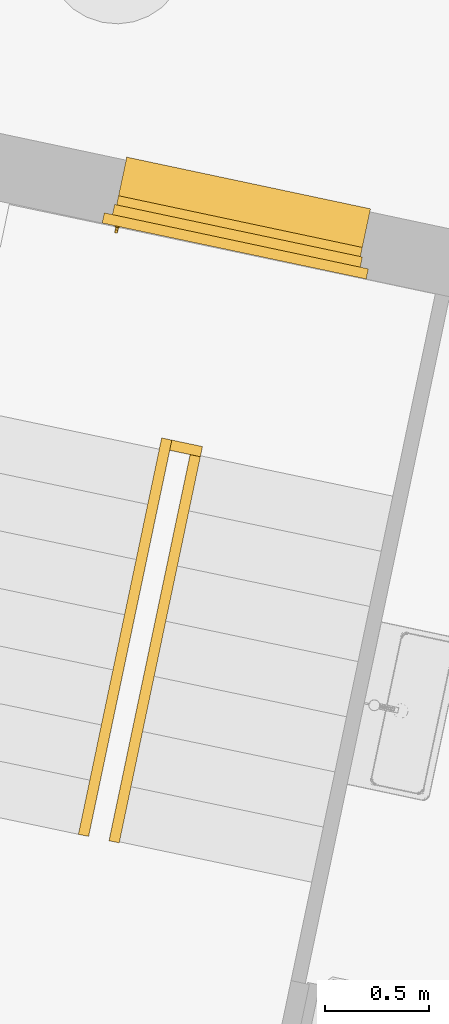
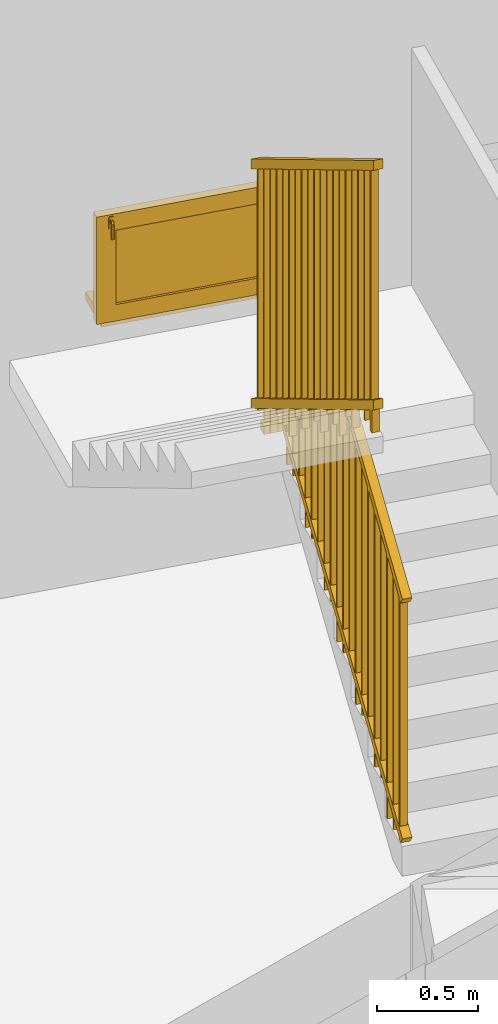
# One storey, part 15 of 20: 1 railing, 1 window, 1 element without a shape of its own.
"""IFC2X3 building model written with IfcOpenShell, lengths in metres."""

from ifc_helpers import new_model, entity, si_unit, converted_unit, derived_unit, direction, frame, frame_2d, origin, place, context, subcontext, project, spatial, polyline, rectangle, outline, extrude, faceted_brep, source, transform, mapped, material, material_list, type_object, type_shapes, element, aggregate, save


model = new_model("IFC2X3")

# Units and contexts
model_context = context("Model", 3, precision=1e-05, world=origin(), true_north=direction((6.12303176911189e-17, 1.0)))
body_context = subcontext(model_context, "Body", "Model", "MODEL_VIEW")
ifc_project = project(units=[si_unit("LENGTHUNIT", "METRE"), si_unit("AREAUNIT", "SQUARE_METRE"), si_unit("VOLUMEUNIT", "CUBIC_METRE"), converted_unit("PLANEANGLEUNIT", "DEGREE", entity("IfcRatioMeasure", 0.0174532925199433), si_unit("PLANEANGLEUNIT", "RADIAN"), dimensions=[0, 0, 0, 0, 0, 0, 0]), si_unit("MASSUNIT", "GRAM", prefix="KILO"), derived_unit("MASSDENSITYUNIT", [(si_unit("MASSUNIT", "GRAM", prefix="KILO"), 1), (si_unit("LENGTHUNIT", "METRE"), -3)]), si_unit("TIMEUNIT", "SECOND"), si_unit("FREQUENCYUNIT", "HERTZ"), si_unit("THERMODYNAMICTEMPERATUREUNIT", "DEGREE_CELSIUS"), derived_unit("THERMALTRANSMITTANCEUNIT", [(si_unit("MASSUNIT", "GRAM", prefix="KILO"), 1), (si_unit("THERMODYNAMICTEMPERATUREUNIT", "KELVIN"), -1), (si_unit("TIMEUNIT", "SECOND"), -3)]), derived_unit("VOLUMETRICFLOWRATEUNIT", [(si_unit("LENGTHUNIT", "METRE"), 3), (si_unit("TIMEUNIT", "SECOND"), -1)]), si_unit("ELECTRICCURRENTUNIT", "AMPERE"), si_unit("ELECTRICVOLTAGEUNIT", "VOLT"), si_unit("POWERUNIT", "WATT"), si_unit("FORCEUNIT", "NEWTON", prefix="KILO"), si_unit("ILLUMINANCEUNIT", "LUX"), si_unit("LUMINOUSFLUXUNIT", "LUMEN"), si_unit("LUMINOUSINTENSITYUNIT", "CANDELA"), derived_unit("USERDEFINED", [(si_unit("MASSUNIT", "GRAM", prefix="KILO"), -1), (si_unit("LENGTHUNIT", "METRE"), -2), (si_unit("TIMEUNIT", "SECOND"), 3), (si_unit("LUMINOUSFLUXUNIT", "LUMEN"), 1)]), derived_unit("LINEARVELOCITYUNIT", [(si_unit("LENGTHUNIT", "METRE"), 1), (si_unit("TIMEUNIT", "SECOND"), -1)]), si_unit("PRESSUREUNIT", "PASCAL"), derived_unit("USERDEFINED", [(si_unit("LENGTHUNIT", "METRE"), -2), (si_unit("MASSUNIT", "GRAM", prefix="KILO"), 1), (si_unit("TIMEUNIT", "SECOND"), -2)])], contexts=[model_context])

# Site, building, storey
site_placement = place(None, origin())
site = spatial("IfcSite", under=ifc_project, at=site_placement, Name="Default", CompositionType="ELEMENT")
building_placement = place(site_placement, origin())
building = spatial("IfcBuilding", under=site, at=building_placement, CompositionType="ELEMENT")
storey_placement = place(building_placement, frame((0.0, 0.0, -0.0686871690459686)))
storey = spatial("IfcBuildingStorey", under=building, at=storey_placement, Name="RDC", CompositionType="ELEMENT", Elevation=-0.0686871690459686)

# Window
ifc_material_1 = material(Name="Fenêtre - Poignée")
ifc_material_2 = material(Name="Fenêtre - Appui")
ifc_material_3 = material(Name="PVC - Blanc")
ifc_material_4 = material(Name="Fenêtre - Cadre")
ifc_material_5 = material(Name="Fenêtre - Vitrage")
ifc_material_list_1 = material_list([ifc_material_1, ifc_material_2, ifc_material_3, ifc_material_4, ifc_material_5])
ifc_material_list_2 = material_list([ifc_material_1, ifc_material_2, ifc_material_3, ifc_material_4, ifc_material_5])
window_style = type_object("IfcWindowStyle", Name="1.20 X 0.60 HT Appui Béton 3", ConstructionType="NOTDEFINED", OperationType="SINGLE_PANEL", ParameterTakesPrecedence=False, Sizeable=False, material=ifc_material_list_2)
shared_shape = source(origin(), body_context, "Body", "Brep", [
    faceted_brep([(0.0806460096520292, 0.333999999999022, 0.702033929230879), (0.0820339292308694, 0.333999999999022, 0.700646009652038), (0.0820339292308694, 0.333999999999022, 0.689332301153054), (0.0806676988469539, 0.333999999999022, 0.687966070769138), (0.0693323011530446, 0.333999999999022, 0.687966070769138), (0.067966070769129, 0.333999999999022, 0.689332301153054), (0.067966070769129, 0.333999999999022, 0.700646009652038), (0.069353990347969, 0.333999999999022, 0.702033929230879), (0.0806460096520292, 0.321086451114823, 0.702033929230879), (0.0820339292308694, 0.321661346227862, 0.700646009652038), (0.0820339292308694, 0.308353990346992, 0.687338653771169), (0.0820339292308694, 0.308353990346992, 0.600000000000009), (0.0820339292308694, 0.319667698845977, 0.600000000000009), (0.0820339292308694, 0.319667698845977, 0.682652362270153), (0.0820339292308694, 0.326347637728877, 0.689332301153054), (0.0806676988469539, 0.326913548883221, 0.687966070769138), (0.0693323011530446, 0.326913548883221, 0.687966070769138), (0.067966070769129, 0.326347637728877, 0.689332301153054), (0.067966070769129, 0.319667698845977, 0.682652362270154), (0.067966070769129, 0.319667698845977, 0.600000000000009), (0.067966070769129, 0.308353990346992, 0.600000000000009), (0.067966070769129, 0.308353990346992, 0.687338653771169), (0.067966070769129, 0.321661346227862, 0.700646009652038), (0.069353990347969, 0.321086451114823, 0.702033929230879), (0.0806460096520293, 0.306966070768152, 0.687913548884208), (0.0806676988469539, 0.321033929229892, 0.68208645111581), (0.0693323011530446, 0.321033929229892, 0.68208645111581), (0.069353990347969, 0.306966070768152, 0.687913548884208), (0.0806460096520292, 0.306966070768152, 0.600000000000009), (0.069353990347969, 0.306966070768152, 0.600000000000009), (0.0693323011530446, 0.321033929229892, 0.600000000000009), (0.0806676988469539, 0.321033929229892, 0.600000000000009)], [[[0, 1, 2, 3, 4, 5, 6, 7]], [[1, 0, 8, 9]], [[2, 1, 9, 10, 11, 12, 13, 14]], [[3, 2, 14, 15]], [[4, 3, 15, 16]], [[5, 4, 16, 17]], [[6, 5, 17, 18, 19, 20, 21, 22]], [[7, 6, 22, 23]], [[0, 7, 23, 8]], [[9, 8, 24, 10]], [[15, 14, 13, 25]], [[16, 15, 25, 26]], [[17, 16, 26, 18]], [[23, 22, 21, 27]], [[8, 23, 27, 24]], [[28, 29, 20, 19, 30, 31, 12, 11]], [[10, 24, 28, 11]], [[25, 13, 12, 31]], [[26, 25, 31, 30]], [[18, 26, 30, 19]], [[27, 21, 20, 29]], [[24, 27, 29, 28]]]),
    faceted_brep([(0.0820000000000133, 0.334000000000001, 0.720000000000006), (0.0679999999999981, 0.334000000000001, 0.720000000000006), (0.0629999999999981, 0.334000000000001, 0.715000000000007), (0.0629999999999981, 0.334000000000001, 0.644999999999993), (0.0679999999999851, 0.334000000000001, 0.640000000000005), (0.0820000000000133, 0.334000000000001, 0.640000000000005), (0.0869999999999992, 0.334000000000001, 0.644999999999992), (0.0869999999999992, 0.334000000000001, 0.715000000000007), (0.0820000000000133, 0.340000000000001, 0.720000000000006), (0.0869999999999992, 0.340000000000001, 0.715000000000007), (0.0869999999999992, 0.340000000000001, 0.644999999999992), (0.0820000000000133, 0.340000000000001, 0.640000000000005), (0.0679999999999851, 0.340000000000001, 0.640000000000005), (0.0629999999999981, 0.340000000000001, 0.644999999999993), (0.0629999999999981, 0.340000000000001, 0.715000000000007), (0.0679999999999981, 0.340000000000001, 0.720000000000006)], [[[0, 1, 2, 3, 4, 5, 6, 7]], [[8, 9, 10, 11, 12, 13, 14, 15]], [[1, 0, 8, 15]], [[2, 1, 15, 14]], [[3, 2, 14, 13]], [[4, 3, 13, 12]], [[5, 4, 12, 11]], [[6, 5, 11, 10]], [[7, 6, 10, 9]], [[0, 7, 9, 8]]]),
    faceted_brep([(0.0499999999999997, 0.420000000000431, 0.0799999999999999), (0.0499999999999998, 0.470000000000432, 0.0799999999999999), (0.0499999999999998, 0.470000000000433, 0.0650000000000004), (0.0500000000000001, 0.675000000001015, 0.0434536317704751), (0.0500000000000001, 0.675000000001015, 0.0), (0.0499999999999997, 0.420000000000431, 0.0), (1.25, 0.42000000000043, 0.0799999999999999), (1.25, 0.42000000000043, 0.0), (1.25, 0.675000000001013, 0.0), (1.25, 0.675000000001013, 0.0434536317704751), (1.25, 0.470000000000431, 0.0650000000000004), (1.25, 0.47000000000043, 0.0799999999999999)], [[[0, 1, 2, 3, 4, 5]], [[6, 7, 8, 9, 10, 11]], [[1, 0, 6, 11]], [[2, 1, 11, 10]], [[3, 2, 10, 9]], [[4, 3, 9, 8]], [[5, 4, 8, 7]], [[0, 5, 7, 6]]]),
    faceted_brep([(0.0999999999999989, 0.379999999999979, 0.18), (0.0999999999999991, 0.339999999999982, 0.18), (1.2, 0.339999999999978, 0.18), (1.2, 0.379999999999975, 0.18), (0.0499999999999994, 0.339999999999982, 0.13), (0.0499999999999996, 0.379999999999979, 0.13), (1.25, 0.379999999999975, 0.13), (1.25, 0.339999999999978, 0.13), (1.2, 0.339999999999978, 0.629999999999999), (1.2, 0.379999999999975, 0.63), (1.25, 0.379999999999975, 0.679999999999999), (1.25, 0.339999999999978, 0.679999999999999), (0.0999999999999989, 0.339999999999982, 0.629999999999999), (0.0999999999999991, 0.379999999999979, 0.629999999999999), (0.0499999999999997, 0.379999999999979, 0.679999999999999), (0.0499999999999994, 0.339999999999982, 0.679999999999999)], [[[0, 1, 2, 3]], [[4, 5, 6, 7]], [[3, 2, 8, 9]], [[7, 6, 10, 11]], [[9, 8, 12, 13]], [[11, 10, 14, 15]], [[13, 12, 1, 0]], [[3, 9, 13, 0], [5, 14, 10, 6]], [[15, 14, 5, 4]], [[7, 11, 15, 4], [1, 12, 8, 2]]], outer=[[True], [True], [True], [True], [True], [True], [True], [False, True], [True], [True, False]]),
    faceted_brep([(0.0, 0.340000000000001, 0.0799999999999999), (0.0, 0.39, 0.0799999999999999), (0.0499999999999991, 0.39, 0.0799999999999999), (0.0499999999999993, 0.474999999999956, 0.0799999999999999), (1.25, 0.474999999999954, 0.0800000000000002), (1.25, 0.39, 0.0799999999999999), (1.3, 0.39, 0.0799999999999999), (1.3, 0.340000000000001, 0.0799999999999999), (0.0649999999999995, 0.39, 0.664999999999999), (0.0649999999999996, 0.39, 0.145), (1.235, 0.39, 0.145), (1.235, 0.39, 0.664999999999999), (0.0, 0.39, 0.729999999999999), (1.3, 0.39, 0.729999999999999), (1.25, 0.39, 0.119376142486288), (0.0499999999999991, 0.39, 0.119376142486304), (0.0649999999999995, 0.38, 0.664999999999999), (0.0649999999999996, 0.38, 0.145), (1.25, 0.38, 0.679999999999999), (0.0499999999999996, 0.38, 0.679999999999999), (0.0499999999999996, 0.38, 0.13), (1.25, 0.38, 0.13), (1.235, 0.38, 0.664999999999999), (1.235, 0.38, 0.145), (0.0499999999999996, 0.340000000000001, 0.679999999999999), (0.0499999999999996, 0.340000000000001, 0.13), (1.3, 0.340000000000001, 0.729999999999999), (0.0, 0.340000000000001, 0.729999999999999), (1.25, 0.340000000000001, 0.679999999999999), (1.25, 0.34, 0.13), (0.0499999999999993, 0.484999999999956, 0.0939209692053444), (0.0499999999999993, 0.484999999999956, 0.0749999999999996), (0.0499999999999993, 0.474999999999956, 0.0749999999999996), (1.25, 0.474999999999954, 0.0749999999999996), (1.25, 0.484999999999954, 0.0749999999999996), (1.25, 0.484999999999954, 0.0939209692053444)], [[[0, 1, 2, 3, 4, 5, 6, 7]], [[8, 9, 10, 11], [1, 12, 13, 6, 5, 14, 15, 2]], [[8, 16, 17, 9]], [[18, 19, 20, 21], [16, 22, 23, 17]], [[20, 19, 24, 25]], [[0, 7, 26, 27], [28, 29, 25, 24]], [[1, 0, 27, 12]], [[8, 11, 22, 16]], [[19, 18, 28, 24]], [[13, 12, 27, 26]], [[22, 11, 10, 23]], [[28, 18, 21, 29]], [[6, 13, 26, 7]], [[15, 30, 31, 32, 3, 2]], [[4, 33, 34, 35, 14, 5]], [[25, 29, 21, 20]], [[17, 23, 10, 9]], [[30, 15, 14, 35]], [[31, 30, 35, 34]], [[32, 31, 34, 33]], [[3, 32, 33, 4]]], outer=[[True], [False, True], [True], [True, False], [True], [True, False], [True], [True], [True], [True], [True], [True], [True], [True], [True], [True], [True], [True], [True], [True], [True]]),
    faceted_brep([(0.0499999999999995, 0.440000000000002, 0.0799999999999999), (0.0499999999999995, 0.39, 0.0799999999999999), (0.039999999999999, 0.39, 0.0799999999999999), (0.039999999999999, 0.440000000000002, 0.0799999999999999), (0.0499999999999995, 0.440000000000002, 0.679999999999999), (0.0499999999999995, 0.39, 0.679999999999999), (1.25, 0.39, 0.679999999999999), (1.25, 0.39, 0.0800000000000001), (1.26, 0.39, 0.0799999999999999), (1.26, 0.39, 0.69), (0.039999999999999, 0.39, 0.69), (0.039999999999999, 0.440000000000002, 0.69), (1.26, 0.440000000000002, 0.69), (1.26, 0.440000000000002, 0.0800000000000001), (1.25, 0.440000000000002, 0.0799999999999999), (1.25, 0.440000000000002, 0.679999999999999)], [[[0, 1, 2, 3]], [[1, 0, 4, 5]], [[2, 1, 5, 6, 7, 8, 9, 10]], [[3, 2, 10, 11]], [[0, 3, 11, 12, 13, 14, 15, 4]], [[5, 4, 15, 6]], [[11, 10, 9, 12]], [[14, 13, 8, 7]], [[6, 15, 14, 7]], [[12, 9, 8, 13]]]),
    faceted_brep([(0.099999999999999, 0.365999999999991, 0.18), (0.099999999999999, 0.365999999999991, 0.629999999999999), (1.2, 0.365999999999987, 0.629999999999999), (1.2, 0.365999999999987, 0.18), (0.0999999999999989, 0.353999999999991, 0.18), (1.2, 0.353999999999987, 0.18), (1.2, 0.353999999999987, 0.629999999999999), (0.0999999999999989, 0.353999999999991, 0.629999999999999)], [[[0, 1, 2, 3]], [[4, 5, 6, 7]], [[1, 0, 4, 7]], [[2, 1, 7, 6]], [[3, 2, 6, 5]], [[0, 3, 5, 4]]]),
])
type_shapes(window_style, [shared_shape])
window_placement = place(storey_placement, frame((-13.317930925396, 85.2299180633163, 1.47), z_axis=(0.0, 0.0, 1.0), x_axis=(0.978238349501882, -0.207484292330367, 0.0)))
element("IfcWindow", 1, at=window_placement, inside=storey, type_object=window_style, material=ifc_material_list_1, Name="1 Vantail - Droit:1.20 X 0.60 HT Appui Béton 3", ObjectType="1 Vantail - Droit:1.20 X 0.60 HT Appui Béton 3", OverallHeight=1.08, OverallWidth=1.3, context=body_context, shape_type="MappedRepresentation", body=[
    mapped(shared_shape, transform((0.0, 0.0, 0.0), scale=1.0)),
])

# Stair, railing
stair_placement = place(storey_placement, origin())
stair = element("IfcStair", 2, at=stair_placement, inside=storey, Name="Escalier coulé sur place:Escalier", ObjectType="Escalier coulé sur place:Monobloc", ShapeType="NOTDEFINED")
ifc_material_6 = material(Name="Peinture - Grise")
ifc_material_7 = material(Name="Peinture - BLEU")
ifc_material_list_3 = material_list([ifc_material_6, ifc_material_7])
railing_placement = place(stair_placement, frame((0.0, 0.0, 0.0686871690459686)))
railing = element("IfcRailing", 3, at=railing_placement, material=ifc_material_list_3, Name="Garde-corps:CLOTURE 1", ObjectType="Garde-corps:CLOTURE 1", PredefinedType="NOTDEFINED", context=body_context, shape_type="SweptSolid", body=[
    extrude(rectangle(XDim=0.0399999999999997, YDim=0.0119999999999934, at=frame_2d((2.83974233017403e-15, -8.25554902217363e-15), x_axis=(1.0, 0.0))), frame((-13.3243772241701, 82.6749203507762, 2.62070705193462), z_axis=(0.0, 0.0, 1.0), x_axis=(0.978645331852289, -0.205556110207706, 0.0)), (0.0, 0.0, 1.0), 1.58790751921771),
    extrude(rectangle(XDim=0.0399999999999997, YDim=0.0119999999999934, at=frame_2d((2.83974233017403e-15, -8.25554902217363e-15), x_axis=(1.0, 0.0))), frame((-13.3038216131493, 82.7727848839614, 2.62070705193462), z_axis=(0.0, 0.0, 1.0), x_axis=(0.978645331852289, -0.205556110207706, 0.0)), (0.0, 0.0, 1.0), 1.5218487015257),
    extrude(rectangle(XDim=0.0399999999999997, YDim=0.0119999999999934, at=frame_2d((2.83974233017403e-15, -8.25554902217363e-15), x_axis=(1.0, 0.0))), frame((-13.2832660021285, 82.8706494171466, 2.62070705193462), z_axis=(0.0, 0.0, 1.0), x_axis=(0.978645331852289, -0.205556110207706, 0.0)), (0.0, 0.0, 1.0), 1.4557898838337),
    extrude(rectangle(XDim=0.0399999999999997, YDim=0.0119999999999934, at=frame_2d((2.83974233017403e-15, -8.25554902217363e-15), x_axis=(1.0, 0.0))), frame((-13.2627103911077, 82.9685139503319, 2.44141410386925), z_axis=(0.0, 0.0, 1.0), x_axis=(0.978645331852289, -0.205556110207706, 0.0)), (0.0, 0.0, 1.0), 1.56902401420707),
    extrude(rectangle(XDim=0.0399999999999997, YDim=0.0119999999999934, at=frame_2d((2.83974233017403e-15, -8.25554902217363e-15), x_axis=(1.0, 0.0))), frame((-13.242154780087, 83.0663784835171, 2.44141410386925), z_axis=(0.0, 0.0, 1.0), x_axis=(0.978645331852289, -0.205556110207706, 0.0)), (0.0, 0.0, 1.0), 1.50296519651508),
    extrude(rectangle(XDim=0.0399999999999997, YDim=0.0119999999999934, at=frame_2d((2.83974233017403e-15, -8.25554902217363e-15), x_axis=(1.0, 0.0))), frame((-13.2215991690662, 83.1642430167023, 2.26212115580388), z_axis=(0.0, 0.0, 1.0), x_axis=(0.978645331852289, -0.205556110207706, 0.0)), (0.0, 0.0, 1.0), 1.61619932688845),
    extrude(rectangle(XDim=0.0399999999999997, YDim=0.0119999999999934, at=frame_2d((2.83974233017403e-15, -8.25554902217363e-15), x_axis=(1.0, 0.0))), frame((-13.2010435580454, 83.2621075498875, 2.26212115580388), z_axis=(0.0, 0.0, 1.0), x_axis=(0.978645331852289, -0.205556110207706, 0.0)), (0.0, 0.0, 1.0), 1.55014050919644),
    extrude(rectangle(XDim=0.0399999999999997, YDim=0.0119999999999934, at=frame_2d((2.83974233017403e-15, -8.25554902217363e-15), x_axis=(1.0, 0.0))), frame((-13.1804879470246, 83.3599720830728, 2.26212115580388), z_axis=(0.0, 0.0, 1.0), x_axis=(0.978645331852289, -0.205556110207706, 0.0)), (0.0, 0.0, 1.0), 1.48408169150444),
    extrude(rectangle(XDim=0.0399999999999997, YDim=0.0119999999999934, at=frame_2d((2.83974233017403e-15, -8.25554902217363e-15), x_axis=(1.0, 0.0))), frame((-13.1599323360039, 83.457836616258, 2.08282820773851), z_axis=(0.0, 0.0, 1.0), x_axis=(0.978645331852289, -0.205556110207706, 0.0)), (0.0, 0.0, 1.0), 1.59731582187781),
    extrude(rectangle(XDim=0.0399999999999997, YDim=0.0119999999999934, at=frame_2d((2.83974233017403e-15, -8.25554902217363e-15), x_axis=(1.0, 0.0))), frame((-13.1393767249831, 83.5557011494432, 2.08282820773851), z_axis=(0.0, 0.0, 1.0), x_axis=(0.978645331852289, -0.205556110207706, 0.0)), (0.0, 0.0, 1.0), 1.53125700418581),
    extrude(rectangle(XDim=0.0399999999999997, YDim=0.0119999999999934, at=frame_2d((2.83974233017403e-15, -8.25554902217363e-15), x_axis=(1.0, 0.0))), frame((-13.1188211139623, 83.6535656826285, 2.08282820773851), z_axis=(0.0, 0.0, 1.0), x_axis=(0.978645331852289, -0.205556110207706, 0.0)), (0.0, 0.0, 1.0), 1.4651981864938),
    extrude(rectangle(XDim=0.0399999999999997, YDim=0.0119999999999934, at=frame_2d((2.83974233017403e-15, -8.25554902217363e-15), x_axis=(1.0, 0.0))), frame((-13.0982655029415, 83.7514302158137, 1.90353525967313), z_axis=(0.0, 0.0, 1.0), x_axis=(0.978645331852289, -0.205556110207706, 0.0)), (0.0, 0.0, 1.0), 1.57843231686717),
    extrude(rectangle(XDim=0.0399999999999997, YDim=0.0119999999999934, at=frame_2d((2.83974233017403e-15, -8.25554902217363e-15), x_axis=(1.0, 0.0))), frame((-13.0777098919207, 83.8492947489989, 1.90353525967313), z_axis=(0.0, 0.0, 1.0), x_axis=(0.978645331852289, -0.205556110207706, 0.0)), (0.0, 0.0, 1.0), 1.51237349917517),
    extrude(rectangle(XDim=0.0399999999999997, YDim=0.0119999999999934, at=frame_2d((-7.21644966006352e-16, 8.70050559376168e-15), x_axis=(1.0, 0.0))), frame((-13.0571542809, 83.9471592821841, 1.72424231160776), z_axis=(0.0, 0.0, 1.0), x_axis=(0.978645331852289, -0.205556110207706, 0.0)), (0.0, 0.0, 1.0), 1.62560762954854),
    extrude(rectangle(XDim=0.0399999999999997, YDim=0.0119999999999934, at=frame_2d((-7.21644966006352e-16, 8.70050559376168e-15), x_axis=(1.0, 0.0))), frame((-13.0365986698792, 84.0450238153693, 1.72424231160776), z_axis=(0.0, 0.0, 1.0), x_axis=(0.978645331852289, -0.205556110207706, 0.0)), (0.0, 0.0, 1.0), 1.55954881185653),
    extrude(rectangle(XDim=0.0399999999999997, YDim=0.0119999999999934, at=frame_2d((-7.21644966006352e-16, 8.70050559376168e-15), x_axis=(1.0, 0.0))), frame((-13.0160430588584, 84.1428883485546, 1.72424231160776), z_axis=(0.0, 0.0, 1.0), x_axis=(0.978645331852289, -0.205556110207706, 0.0)), (0.0, 0.0, 1.0), 1.49348999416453),
    extrude(rectangle(XDim=0.0399999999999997, YDim=0.0119999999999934, at=frame_2d((-7.21644966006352e-16, 8.70050559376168e-15), x_axis=(1.0, 0.0))), frame((-12.9954874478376, 84.2407528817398, 1.54494936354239), z_axis=(0.0, 0.0, 1.0), x_axis=(0.978645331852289, -0.205556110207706, 0.0)), (0.0, 0.0, 1.0), 1.6067241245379),
    extrude(rectangle(XDim=0.0399999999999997, YDim=0.0119999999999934, at=frame_2d((-7.21644966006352e-16, 8.70050559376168e-15), x_axis=(1.0, 0.0))), frame((-12.9749318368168, 84.338617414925, 1.54494936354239), z_axis=(0.0, 0.0, 1.0), x_axis=(0.978645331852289, -0.205556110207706, 0.0)), (0.0, 0.0, 1.0), 1.5406653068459),
    extrude(rectangle(XDim=0.0399999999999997, YDim=0.0119999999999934, at=frame_2d((-7.21644966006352e-16, 8.70050559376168e-15), x_axis=(1.0, 0.0))), frame((-12.9543762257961, 84.4364819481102, 1.54494936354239), z_axis=(0.0, 0.0, 1.0), x_axis=(0.978645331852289, -0.205556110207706, 0.0)), (0.0, 0.0, 1.0), 1.47460648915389),
    extrude(rectangle(XDim=0.0399999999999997, YDim=0.0119999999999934, at=frame_2d((-2.83974233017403e-15, 8.25554902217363e-15), x_axis=(1.0, 0.0))), frame((-12.8067965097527, 84.4054840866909, 1.18636346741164), z_axis=(0.0, 0.0, 1.0), x_axis=(-0.978645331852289, 0.205556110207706, 0.0)), (0.0, 0.0, 1.0), 1.60468645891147),
    extrude(rectangle(XDim=0.0399999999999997, YDim=0.0119999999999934, at=frame_2d((-2.83974233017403e-15, 8.25554902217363e-15), x_axis=(1.0, 0.0))), frame((-12.8273521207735, 84.3076195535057, 1.18636346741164), z_axis=(0.0, 0.0, 1.0), x_axis=(-0.978645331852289, 0.205556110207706, 0.0)), (0.0, 0.0, 1.0), 1.53862764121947),
    extrude(rectangle(XDim=0.0399999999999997, YDim=0.0119999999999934, at=frame_2d((7.21644966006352e-16, -8.70050559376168e-15), x_axis=(1.0, 0.0))), frame((-12.8479077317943, 84.2097550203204, 1.18636346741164), z_axis=(0.0, 0.0, 1.0), x_axis=(-0.978645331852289, 0.205556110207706, 0.0)), (0.0, 0.0, 1.0), 1.47256882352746),
    extrude(rectangle(XDim=0.0399999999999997, YDim=0.0119999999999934, at=frame_2d((7.21644966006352e-16, -8.70050559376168e-15), x_axis=(1.0, 0.0))), frame((-12.8684633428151, 84.1118904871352, 1.00707051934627), z_axis=(0.0, 0.0, 1.0), x_axis=(-0.978645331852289, 0.205556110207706, 0.0)), (0.0, 0.0, 1.0), 1.58580295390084),
    extrude(rectangle(XDim=0.0399999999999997, YDim=0.0119999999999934, at=frame_2d((7.21644966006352e-16, -8.70050559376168e-15), x_axis=(1.0, 0.0))), frame((-12.8890189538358, 84.01402595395, 1.00707051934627), z_axis=(0.0, 0.0, 1.0), x_axis=(-0.978645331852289, 0.205556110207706, 0.0)), (0.0, 0.0, 1.0), 1.51974413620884),
    extrude(rectangle(XDim=0.0399999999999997, YDim=0.0119999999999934, at=frame_2d((7.21644966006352e-16, -8.70050559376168e-15), x_axis=(1.0, 0.0))), frame((-12.9095745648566, 83.9161614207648, 1.00707051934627), z_axis=(0.0, 0.0, 1.0), x_axis=(-0.978645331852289, 0.205556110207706, 0.0)), (0.0, 0.0, 1.0), 1.45368531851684),
    extrude(rectangle(XDim=0.0399999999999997, YDim=0.0119999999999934, at=frame_2d((7.21644966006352e-16, -8.70050559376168e-15), x_axis=(1.0, 0.0))), frame((-12.9301301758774, 83.8182968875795, 0.827777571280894), z_axis=(0.0, 0.0, 1.0), x_axis=(-0.978645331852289, 0.205556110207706, 0.0)), (0.0, 0.0, 1.0), 1.56691944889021),
    extrude(rectangle(XDim=0.0399999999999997, YDim=0.0119999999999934, at=frame_2d((7.21644966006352e-16, -8.70050559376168e-15), x_axis=(1.0, 0.0))), frame((-12.9506857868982, 83.7204323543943, 0.827777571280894), z_axis=(0.0, 0.0, 1.0), x_axis=(-0.978645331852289, 0.205556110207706, 0.0)), (0.0, 0.0, 1.0), 1.5008606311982),
    extrude(rectangle(XDim=0.0399999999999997, YDim=0.0119999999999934, at=frame_2d((7.21644966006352e-16, -8.70050559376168e-15), x_axis=(1.0, 0.0))), frame((-12.971241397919, 83.6225678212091, 0.648484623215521), z_axis=(0.0, 0.0, 1.0), x_axis=(-0.978645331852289, 0.205556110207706, 0.0)), (0.0, 0.0, 1.0), 1.61409476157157),
    extrude(rectangle(XDim=0.0399999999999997, YDim=0.0119999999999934, at=frame_2d((7.21644966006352e-16, -8.70050559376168e-15), x_axis=(1.0, 0.0))), frame((-12.9917970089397, 83.5247032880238, 0.648484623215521), z_axis=(0.0, 0.0, 1.0), x_axis=(-0.978645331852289, 0.205556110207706, 0.0)), (0.0, 0.0, 1.0), 1.54803594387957),
    extrude(rectangle(XDim=0.0399999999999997, YDim=0.0119999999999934, at=frame_2d((7.21644966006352e-16, -8.70050559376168e-15), x_axis=(1.0, 0.0))), frame((-13.0123526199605, 83.4268387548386, 0.648484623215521), z_axis=(0.0, 0.0, 1.0), x_axis=(-0.978645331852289, 0.205556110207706, 0.0)), (0.0, 0.0, 1.0), 1.48197712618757),
    extrude(rectangle(XDim=0.0399999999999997, YDim=0.0119999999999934, at=frame_2d((7.21644966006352e-16, -8.70050559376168e-15), x_axis=(1.0, 0.0))), frame((-13.0329082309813, 83.3289742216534, 0.469191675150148), z_axis=(0.0, 0.0, 1.0), x_axis=(-0.978645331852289, 0.205556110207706, 0.0)), (0.0, 0.0, 1.0), 1.59521125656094),
    extrude(rectangle(XDim=0.0399999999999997, YDim=0.0119999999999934, at=frame_2d((7.21644966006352e-16, -8.70050559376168e-15), x_axis=(1.0, 0.0))), frame((-13.0534638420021, 83.2311096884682, 0.469191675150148), z_axis=(0.0, 0.0, 1.0), x_axis=(-0.978645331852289, 0.205556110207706, 0.0)), (0.0, 0.0, 1.0), 1.52915243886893),
    extrude(rectangle(XDim=0.0399999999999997, YDim=0.0119999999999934, at=frame_2d((7.21644966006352e-16, -8.70050559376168e-15), x_axis=(1.0, 0.0))), frame((-13.0740194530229, 83.1332451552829, 0.469191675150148), z_axis=(0.0, 0.0, 1.0), x_axis=(-0.978645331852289, 0.205556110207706, 0.0)), (0.0, 0.0, 1.0), 1.46309362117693),
    extrude(rectangle(XDim=0.0399999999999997, YDim=0.0119999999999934, at=frame_2d((7.21644966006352e-16, -8.70050559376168e-15), x_axis=(1.0, 0.0))), frame((-13.0945750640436, 83.0353806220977, 0.289898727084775), z_axis=(0.0, 0.0, 1.0), x_axis=(-0.978645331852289, 0.205556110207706, 0.0)), (0.0, 0.0, 1.0), 1.5763277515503),
    extrude(rectangle(XDim=0.0399999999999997, YDim=0.0119999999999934, at=frame_2d((7.21644966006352e-16, -8.70050559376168e-15), x_axis=(1.0, 0.0))), frame((-13.1151306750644, 82.9375160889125, 0.289898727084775), z_axis=(0.0, 0.0, 1.0), x_axis=(-0.978645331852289, 0.205556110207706, 0.0)), (0.0, 0.0, 1.0), 1.5102689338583),
    extrude(rectangle(XDim=0.0399999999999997, YDim=0.0119999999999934, at=frame_2d((7.21644966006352e-16, -8.70050559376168e-15), x_axis=(1.0, 0.0))), frame((-13.1356862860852, 82.8396515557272, 0.110605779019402), z_axis=(0.0, 0.0, 1.0), x_axis=(-0.978645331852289, 0.205556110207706, 0.0)), (0.0, 0.0, 1.0), 1.62350306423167),
    extrude(rectangle(XDim=0.0399999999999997, YDim=0.0119999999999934, at=frame_2d((7.21644966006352e-16, -8.70050559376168e-15), x_axis=(1.0, 0.0))), frame((-13.156241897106, 82.741787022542, 0.110605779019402), z_axis=(0.0, 0.0, 1.0), x_axis=(-0.978645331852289, 0.205556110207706, 0.0)), (0.0, 0.0, 1.0), 1.55744424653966),
    extrude(rectangle(XDim=0.0399999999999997, YDim=0.0119999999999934, at=frame_2d((7.21644966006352e-16, -8.70050559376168e-15), x_axis=(1.0, 0.0))), frame((-13.1767975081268, 82.6439224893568, 0.110605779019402), z_axis=(0.0, 0.0, 1.0), x_axis=(-0.978645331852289, 0.205556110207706, 0.0)), (0.0, 0.0, 1.0), 1.49138542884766),
    extrude(rectangle(XDim=0.0399999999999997, YDim=0.0119999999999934, at=frame_2d((-7.21644966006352e-16, 8.70050559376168e-15), x_axis=(1.0, 0.0))), frame((-12.793918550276, 84.4667955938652, 1.36565641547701), z_axis=(0.0, 0.0, 1.0), x_axis=(-0.978645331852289, 0.205556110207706, 0.0)), (0.0, 0.0, 1.0), 0.016778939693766),
    extrude(rectangle(XDim=0.0399999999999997, YDim=0.0119999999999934, at=frame_2d((2.83974233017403e-15, -8.25554902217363e-15), x_axis=(1.0, 0.0))), frame((-13.3269773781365, 82.6625411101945, 2.62070705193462), z_axis=(0.0, 0.0, 1.0), x_axis=(0.978645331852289, -0.205556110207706, 0.0)), (0.0, 0.0, 1.0), 0.146263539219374),
    extrude(rectangle(XDim=0.0399999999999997, YDim=0.0119999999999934, at=frame_2d((2.83974233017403e-15, -8.25554902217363e-15), x_axis=(1.0, 0.0))), frame((-13.1793976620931, 82.6315432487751, 0.110605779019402), z_axis=(0.0, 0.0, 1.0), x_axis=(-0.978645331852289, 0.205556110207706, 0.0)), (0.0, 0.0, 1.0), 0.0330294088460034),
    extrude(rectangle(XDim=0.050000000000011, YDim=0.0500000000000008, at=frame_2d((1.78156100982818e-15, -8.96505092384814e-15), x_axis=(0.0, 1.0))), frame((-13.1868429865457, 82.5960963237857, 1.58974618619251), z_axis=(0.171512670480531, 0.816565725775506, 0.55118401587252), x_axis=(0.978645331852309, -0.205556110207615, 0.0)), (0.0, 0.0, 1.0), 2.27700840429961),
    extrude(rectangle(XDim=0.150800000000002, YDim=0.0500000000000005, at=frame_2d((1.06858966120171e-15, 2.23779328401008e-16), x_axis=(1.0, 0.0))), frame((-12.8432422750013, 84.4771556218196, 2.81565641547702), z_axis=(0.0, 0.0, 1.0), x_axis=(-0.97864533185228, 0.205556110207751, 0.0)), (0.0, 0.0, 1.0), 0.05),
    extrude(outline(polyline([(-1.15219142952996, -0.0250000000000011), (1.18522083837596, -0.0250000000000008), (1.15219142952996, 0.0250000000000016), (-1.18522083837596, 0.0250000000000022), (-1.15219142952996, -0.0250000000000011)])), frame((-13.1612734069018, 83.5730731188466, 3.62586562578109), z_axis=(0.978645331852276, -0.205556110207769, 0.0), x_axis=(-0.171512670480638, -0.8165657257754, 0.551184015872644)), (0.0, 0.0, 1.0), 0.0500000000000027),
    extrude(rectangle(XDim=0.0500000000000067, YDim=0.0500000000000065, at=frame_2d((2.84147705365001e-15, -7.89472653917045e-15), x_axis=(0.0, 1.0))), frame((-13.1868429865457, 82.5960963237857, 0.139746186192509), z_axis=(0.171512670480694, 0.816565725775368, 0.551184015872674), x_axis=(0.978645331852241, -0.205556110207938, 0.0)), (0.0, 0.0, 1.0), 2.27700840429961),
    extrude(rectangle(XDim=0.150800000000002, YDim=0.0500000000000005, at=frame_2d((1.06858966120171e-15, 2.23779328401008e-16), x_axis=(1.0, 0.0))), frame((-12.8432422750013, 84.4771556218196, 1.36565641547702), z_axis=(0.0, 0.0, 1.0), x_axis=(-0.97864533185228, 0.205556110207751, 0.0)), (0.0, 0.0, 1.0), 0.05),
    extrude(outline(polyline([(-1.15219142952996, -0.0250000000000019), (1.18522083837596, -0.0250000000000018), (1.15219142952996, 0.0250000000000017), (-1.18522083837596, 0.0250000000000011), (-1.15219142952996, -0.0250000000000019)])), frame((-13.1612734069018, 83.5730731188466, 2.1758656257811), z_axis=(0.978645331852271, -0.205556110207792, 0.0), x_axis=(-0.171512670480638, -0.8165657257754, 0.551184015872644)), (0.0, 0.0, 1.0), 0.0500000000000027),
])
aggregate(stair, [railing])

save(model, "model.ifc")
